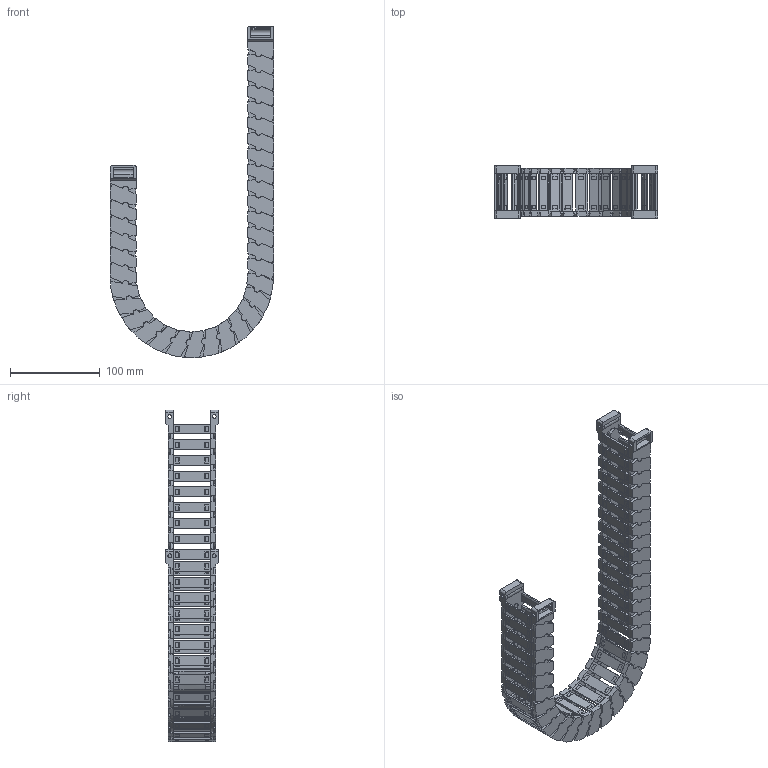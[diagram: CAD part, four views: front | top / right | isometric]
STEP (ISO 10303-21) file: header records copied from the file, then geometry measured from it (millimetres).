
FILE_DESCRIPTION(/* description */ (''),/* implementation_level */ '2;1');
FILE_NAME(/* name */ 'JY22-40-R75.stp',/* time_stamp */ '2026-07-24T13:29:00+08:00',/* author */ (''),/* organization */ (''),/* preprocessor_version */ 'ST-DEVELOPER v19.4',/* originating_system */ 'SIEMENS PLM Software NX2306.5001',/* authorisation */ '');
FILE_SCHEMA (('AP203_CONFIGURATION_CONTROLLED_3D_DESIGN_OF_MECHANICAL_PARTS_AND_ASSEMBLIES_MIM_LF { 1 0 10303 403 2 1 2}'));
Products named in the file (1): 简易图纸_objects
Bounding box: 182.32 x 58.5 x 369.64 mm (x, y, z)
Volume: 279073.4 mm3; surface area: 249925.2 mm2
Topology: 35 solids, 35 shells, 5796 faces, 18770 edges, 12494 vertices
Faces by surface type: plane 4338, cylinder 918, cone 272, bspline 268
Full cylindrical faces by diameter (mm): 4.2 x8, 7 x68, 7.1 x68
Entity records: 215779 total; most frequent: CARTESIAN_POINT 51317, ORIENTED_EDGE 36964, DIRECTION 31874, EDGE_CURVE 18482, LINE 12616, VECTOR 12616, VERTEX_POINT 12350, AXIS2_PLACEMENT_3D 9629
